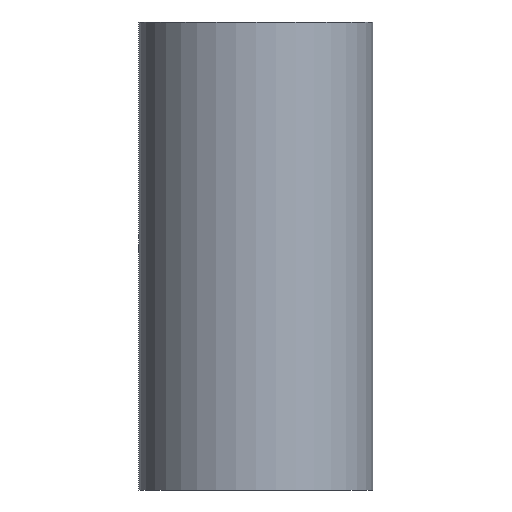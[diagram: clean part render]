
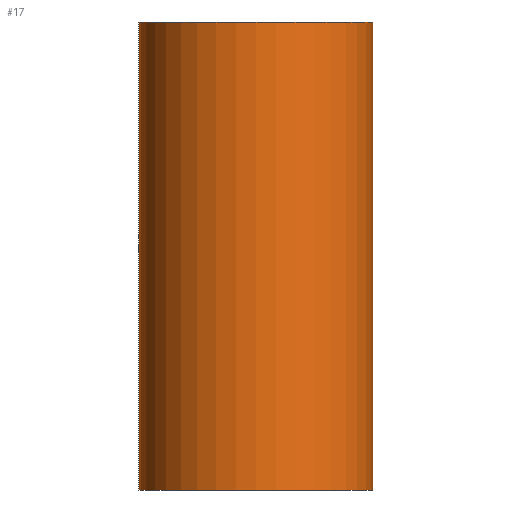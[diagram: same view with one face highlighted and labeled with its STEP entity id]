
A CAD part, front view. The second image highlights one B-rep face of the part: STEP entity #17.
In plain terms, the highlighted cylindrical face has radius 5 mm (diameter 10 mm), a full revolution.
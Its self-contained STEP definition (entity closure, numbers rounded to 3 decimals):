
#17 = ADVANCED_FACE('',(#18),#32,.T.);
#18 = FACE_BOUND('',#19,.F.);
#19 = EDGE_LOOP('',(#20,#50,#77,#78));
#20 = ORIENTED_EDGE('',*,*,#21,.T.);
#21 = EDGE_CURVE('',#22,#24,#26,.T.);
#22 = VERTEX_POINT('',#23);
#23 = CARTESIAN_POINT('',(5.,0.,0.));
#24 = VERTEX_POINT('',#25);
#25 = CARTESIAN_POINT('',(5.,0.,20.));
#26 = SEAM_CURVE('',#27,(#31,#43),.PCURVE_S1.);
#27 = LINE('',#28,#29);
#28 = CARTESIAN_POINT('',(5.,0.,0.));
#29 = VECTOR('',#30,1.);
#30 = DIRECTION('',(0.,0.,1.));
#31 = PCURVE('',#32,#37);
#32 = CYLINDRICAL_SURFACE('',#33,5.);
#33 = AXIS2_PLACEMENT_3D('',#34,#35,#36);
#34 = CARTESIAN_POINT('',(0.,0.,0.));
#35 = DIRECTION('',(-0.,-0.,-1.));
#36 = DIRECTION('',(1.,0.,0.));
#37 = DEFINITIONAL_REPRESENTATION('',(#38),#42);
#38 = LINE('',#39,#40);
#39 = CARTESIAN_POINT('',(-0.,0.));
#40 = VECTOR('',#41,1.);
#41 = DIRECTION('',(-0.,-1.));
#42 = ( GEOMETRIC_REPRESENTATION_CONTEXT(2) 
PARAMETRIC_REPRESENTATION_CONTEXT() REPRESENTATION_CONTEXT('2D SPACE',''
  ) );
#43 = PCURVE('',#32,#44);
#44 = DEFINITIONAL_REPRESENTATION('',(#45),#49);
#45 = LINE('',#46,#47);
#46 = CARTESIAN_POINT('',(-6.283,0.));
#47 = VECTOR('',#48,1.);
#48 = DIRECTION('',(-0.,-1.));
#49 = ( GEOMETRIC_REPRESENTATION_CONTEXT(2) 
PARAMETRIC_REPRESENTATION_CONTEXT() REPRESENTATION_CONTEXT('2D SPACE',''
  ) );
#50 = ORIENTED_EDGE('',*,*,#51,.T.);
#51 = EDGE_CURVE('',#24,#24,#52,.T.);
#52 = SURFACE_CURVE('',#53,(#58,#65),.PCURVE_S1.);
#53 = CIRCLE('',#54,5.);
#54 = AXIS2_PLACEMENT_3D('',#55,#56,#57);
#55 = CARTESIAN_POINT('',(0.,0.,20.));
#56 = DIRECTION('',(0.,0.,1.));
#57 = DIRECTION('',(1.,0.,0.));
#58 = PCURVE('',#32,#59);
#59 = DEFINITIONAL_REPRESENTATION('',(#60),#64);
#60 = LINE('',#61,#62);
#61 = CARTESIAN_POINT('',(-0.,-20.));
#62 = VECTOR('',#63,1.);
#63 = DIRECTION('',(-1.,0.));
#64 = ( GEOMETRIC_REPRESENTATION_CONTEXT(2) 
PARAMETRIC_REPRESENTATION_CONTEXT() REPRESENTATION_CONTEXT('2D SPACE',''
  ) );
#65 = PCURVE('',#66,#71);
#66 = PLANE('',#67);
#67 = AXIS2_PLACEMENT_3D('',#68,#69,#70);
#68 = CARTESIAN_POINT('',(0.,0.,20.));
#69 = DIRECTION('',(0.,0.,1.));
#70 = DIRECTION('',(1.,0.,-0.));
#71 = DEFINITIONAL_REPRESENTATION('',(#72),#76);
#72 = CIRCLE('',#73,5.);
#73 = AXIS2_PLACEMENT_2D('',#74,#75);
#74 = CARTESIAN_POINT('',(0.,0.));
#75 = DIRECTION('',(1.,0.));
#76 = ( GEOMETRIC_REPRESENTATION_CONTEXT(2) 
PARAMETRIC_REPRESENTATION_CONTEXT() REPRESENTATION_CONTEXT('2D SPACE',''
  ) );
#77 = ORIENTED_EDGE('',*,*,#21,.F.);
#78 = ORIENTED_EDGE('',*,*,#79,.F.);
#79 = EDGE_CURVE('',#22,#22,#80,.T.);
#80 = SURFACE_CURVE('',#81,(#86,#93),.PCURVE_S1.);
#81 = CIRCLE('',#82,5.);
#82 = AXIS2_PLACEMENT_3D('',#83,#84,#85);
#83 = CARTESIAN_POINT('',(0.,0.,0.));
#84 = DIRECTION('',(0.,0.,1.));
#85 = DIRECTION('',(1.,0.,0.));
#86 = PCURVE('',#32,#87);
#87 = DEFINITIONAL_REPRESENTATION('',(#88),#92);
#88 = LINE('',#89,#90);
#89 = CARTESIAN_POINT('',(-0.,0.));
#90 = VECTOR('',#91,1.);
#91 = DIRECTION('',(-1.,0.));
#92 = ( GEOMETRIC_REPRESENTATION_CONTEXT(2) 
PARAMETRIC_REPRESENTATION_CONTEXT() REPRESENTATION_CONTEXT('2D SPACE',''
  ) );
#93 = PCURVE('',#94,#99);
#94 = PLANE('',#95);
#95 = AXIS2_PLACEMENT_3D('',#96,#97,#98);
#96 = CARTESIAN_POINT('',(0.,0.,0.));
#97 = DIRECTION('',(0.,0.,1.));
#98 = DIRECTION('',(1.,0.,-0.));
#99 = DEFINITIONAL_REPRESENTATION('',(#100),#104);
#100 = CIRCLE('',#101,5.);
#101 = AXIS2_PLACEMENT_2D('',#102,#103);
#102 = CARTESIAN_POINT('',(0.,0.));
#103 = DIRECTION('',(1.,0.));
#104 = ( GEOMETRIC_REPRESENTATION_CONTEXT(2) 
PARAMETRIC_REPRESENTATION_CONTEXT() REPRESENTATION_CONTEXT('2D SPACE',''
  ) );
